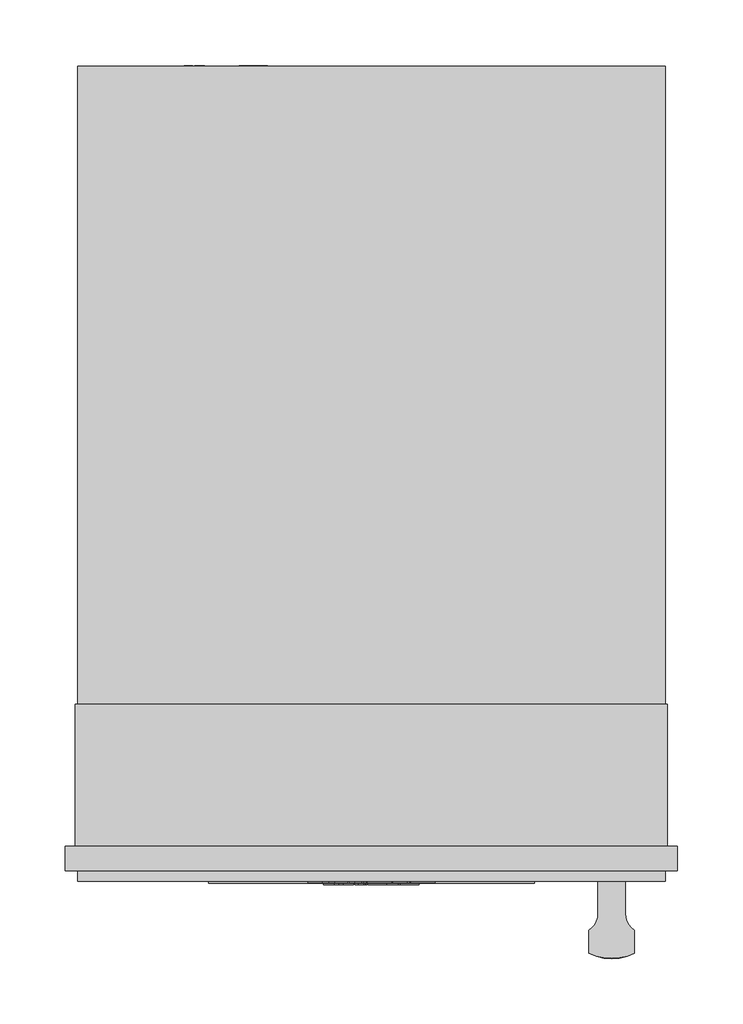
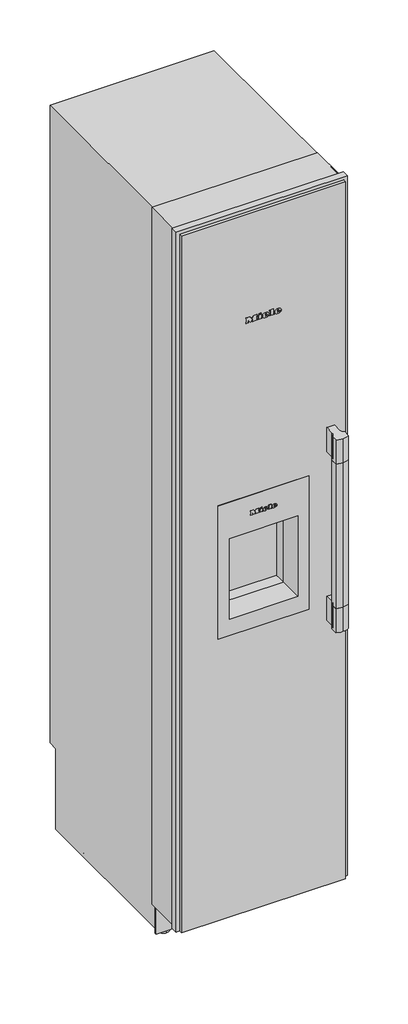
# Not in any storey: 1 proxy.
"""IFC4 building model written with IfcOpenShell, lengths in millimetres."""

from ifc_helpers import new_model, si_unit, origin, place, context, project, spatial, transform, mapped, element, save
from components import specialty_equipment_17c33e57

model = new_model("IFC4")

# Units and contexts
model_context = context("Model", 3, world=origin())
ifc_project = project(units=[si_unit("LENGTHUNIT", "METRE", prefix="MILLI")], contexts=[model_context])

# Site, building
site = spatial("IfcSite", under=ifc_project)
building = spatial("IfcBuilding", under=site)

# Proxy
placement = place(None, origin())
specialty_equipment_shape = specialty_equipment_17c33e57(model_context)
element("IfcBuildingElementProxy", 1, Name="11503530_USA_F2472SF : 37247211_USA_11503530_F2472SF", ObjectType="11503530_USA_F2472SF : 37247211_USA_11503530_F2472SF", at=placement, inside=building, context=model_context, shape_type="MappedRepresentation", body=[
    mapped(specialty_equipment_shape, transform((0.0, 0.0, 0.0), x_axis=(1.0, 0.0, 0.0), y_axis=(0.0, 1.0, 0.0), z_axis=(0.0, 0.0, 1.0))),
])

save(model, "model.ifc")
